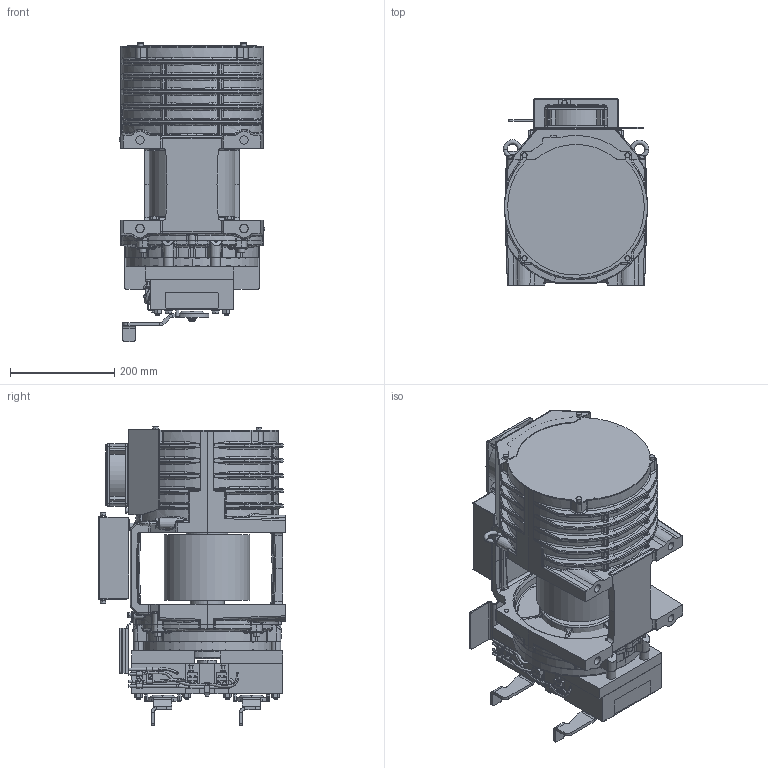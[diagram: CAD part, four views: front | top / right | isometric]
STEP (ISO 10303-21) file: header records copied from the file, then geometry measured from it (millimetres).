
FILE_DESCRIPTION((''),'2;1');
FILE_NAME('00349188_ASM','2019-06-03T',('polieridb'),('Sicor spa'),'CREO PARAMETRIC BY PTC INC, 2017170','CREO PARAMETRIC BY PTC INC, 2017170','');
FILE_SCHEMA(('CONFIG_CONTROL_DESIGN'));
Length unit declared in the file: millimetre
Products named in the file (3): 00332487_SW0001; 00130249; 00349188_ASM
Assembly tree (2 placements, depth 2):
  00349188_ASM
    00332487_SW0001
    00130249
Bounding box: 280 x 358 x 574.52 mm (x, y, z)
Volume: 1727087.3 mm3; surface area: 1931659.8 mm2
Topology: 1 solids, 172 shells, 3168 faces, 8692 edges, 5455 vertices
Faces by surface type: cylinder 889, bspline 829, plane 729, torus 350, cone 283, sphere 68, extrusion 13, revolution 7
Entity records: 184656 total; most frequent: CARTESIAN_POINT 114542, ORIENTED_EDGE 15370, DIRECTION 12415, EDGE_CURVE 8608, VERTEX_POINT 5455, AXIS2_PLACEMENT_3D 4968, B_SPLINE_CURVE_WITH_KNOTS 3527, EDGE_LOOP 3181
